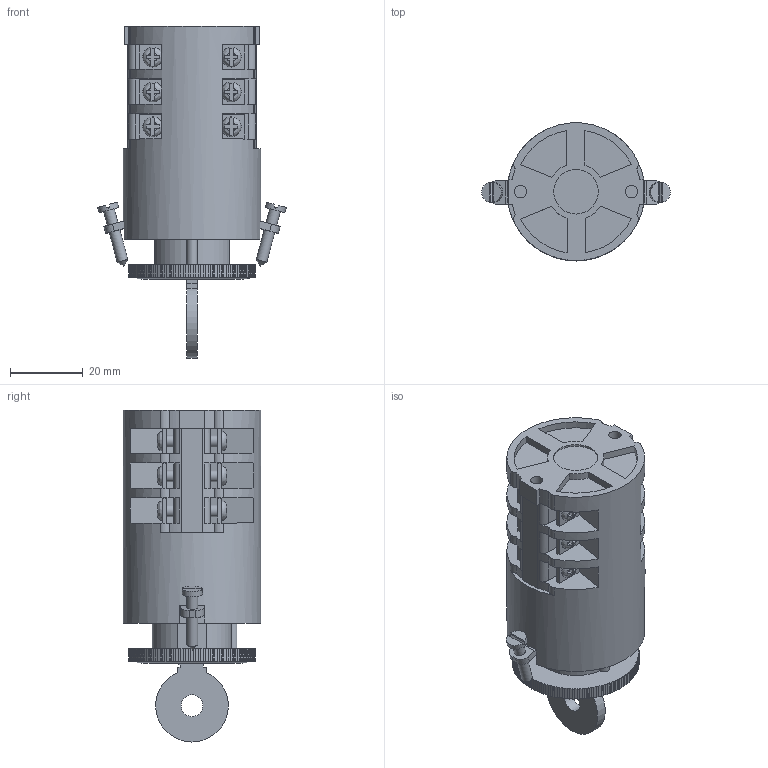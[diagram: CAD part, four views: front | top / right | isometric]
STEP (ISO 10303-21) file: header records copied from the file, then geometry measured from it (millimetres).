
FILE_DESCRIPTION(/* description */ (''),/* implementation_level */ '2;1');
FILE_NAME(/* name */ '4G10-U_wykonanie_S10_3_korpusy.stp',/* time_stamp */ '2021-07-21T08:16:23+02:00',/* author */ (''),/* organization */ (''),/* preprocessor_version */ 'ST-DEVELOPER v18.1',/* originating_system */ 'SIEMENS PLM Software NX 1965',/* authorisation */ '');
FILE_SCHEMA (('AUTOMOTIVE_DESIGN { 1 0 10303 214 3 1 1 1 }'));
Length unit declared in the file: millimetre
Products named in the file (1): 4G10-U_wykonanie_S10_3_korpusy_stp
Bounding box: 51.98 x 38 x 91.48 mm (x, y, z)
Volume: 65317.2 mm3; surface area: 18715.6 mm2
Topology: 1 solids, 3 shells, 815 faces, 2313 edges, 1544 vertices
Faces by surface type: plane 629, cylinder 168, bspline 12, cone 4, torus 2
Full cylindrical faces by diameter (mm): 3 x4, 3.2 x12, 3.4 x4, 5.5 x2, 5.6 x2, 6 x1, 12.3 x1, 15.8 x1, 16.1 x1, 38 x1
Entity records: 26336 total; most frequent: CARTESIAN_POINT 5498, ORIENTED_EDGE 4454, DIRECTION 4130, EDGE_CURVE 2227, LINE 1516, VECTOR 1516, VERTEX_POINT 1507, AXIS2_PLACEMENT_3D 1307
